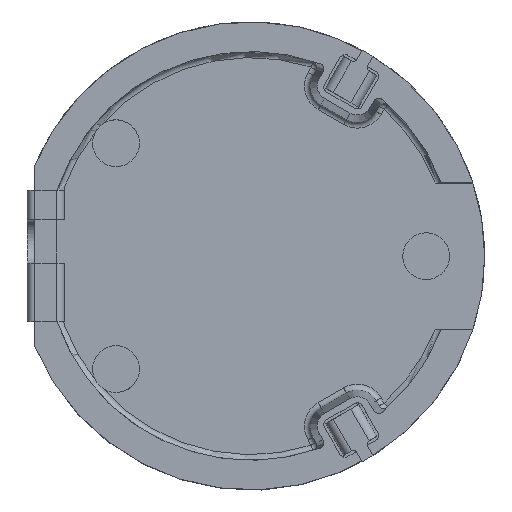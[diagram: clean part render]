
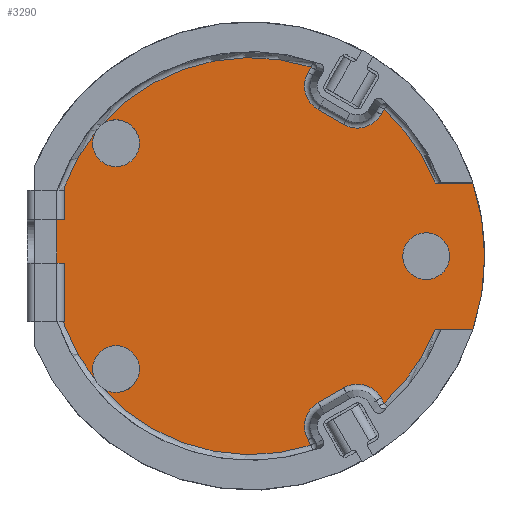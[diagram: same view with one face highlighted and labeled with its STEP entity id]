
A CAD part, top view. The second image highlights one B-rep face of the part: STEP entity #3290.
In plain terms, the highlighted planar face has unit normal (0, 0, 1).
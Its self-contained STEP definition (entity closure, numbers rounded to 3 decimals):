
#882=CARTESIAN_POINT('',(6.,0.,-4.95));
#883=DIRECTION('',(0.,0.,1.));
#884=DIRECTION('',(1.,0.,0.));
#885=AXIS2_PLACEMENT_3D('',#882,#883,#884);
#887=CARTESIAN_POINT('',(6.,0.,-4.95));
#888=DIRECTION('',(0.,0.,1.));
#889=DIRECTION('',(-1.,0.,0.));
#890=AXIS2_PLACEMENT_3D('',#887,#888,#889);
#892=CARTESIAN_POINT('',(0.,0.,-4.95));
#893=DIRECTION('',(0.,0.,1.));
#894=DIRECTION('',(-0.784,0.621,0.));
#895=AXIS2_PLACEMENT_3D('',#892,#893,#894);
#897=CARTESIAN_POINT('',(-4.6,3.86,-4.95));
#898=DIRECTION('',(0.,0.,1.));
#899=DIRECTION('',(-0.896,0.444,0.));
#900=AXIS2_PLACEMENT_3D('',#897,#898,#899);
#902=CARTESIAN_POINT('',(-4.6,3.86,-4.95));
#903=DIRECTION('',(0.,0.,1.));
#904=DIRECTION('',(-1.,0.,0.));
#905=AXIS2_PLACEMENT_3D('',#902,#903,#904);
#907=CARTESIAN_POINT('',(-4.6,3.86,-4.95));
#908=DIRECTION('',(0.,0.,1.));
#909=DIRECTION('',(1.,0.,0.));
#910=AXIS2_PLACEMENT_3D('',#907,#908,#909);
#912=CARTESIAN_POINT('',(0.,0.,-4.95));
#913=DIRECTION('',(0.,0.,1.));
#914=DIRECTION('',(0.305,0.952,0.));
#915=AXIS2_PLACEMENT_3D('',#912,#913,#914);
#917=DIRECTION('',(-0.5,-0.866,0.));
#918=VECTOR('',#917,0.204);
#919=CARTESIAN_POINT('',(2.068,6.462,-4.95));
#920=LINE('',#919,#918);
#921=CARTESIAN_POINT('',(2.78,5.815,-4.95));
#922=DIRECTION('',(0.,0.,1.));
#923=DIRECTION('',(-0.866,0.5,0.));
#924=AXIS2_PLACEMENT_3D('',#921,#922,#923);
#926=DIRECTION('',(0.866,-0.5,0.));
#927=VECTOR('',#926,1.001);
#928=CARTESIAN_POINT('',(2.31,5.002,-4.95));
#929=LINE('',#928,#927);
#930=CARTESIAN_POINT('',(3.646,5.315,-4.95));
#931=DIRECTION('',(0.,0.,1.));
#932=DIRECTION('',(-0.5,-0.866,0.));
#933=AXIS2_PLACEMENT_3D('',#930,#931,#932);
#935=DIRECTION('',(0.5,0.866,0.));
#936=VECTOR('',#935,0.204);
#937=CARTESIAN_POINT('',(4.46,4.845,-4.95));
#938=LINE('',#937,#936);
#939=DIRECTION('',(-0.5,0.866,0.));
#940=VECTOR('',#939,0.204);
#941=CARTESIAN_POINT('',(4.562,-5.022,-4.95));
#942=LINE('',#941,#940);
#943=CARTESIAN_POINT('',(3.646,-5.315,-4.95));
#944=DIRECTION('',(0.,0.,1.));
#945=DIRECTION('',(0.866,0.5,0.));
#946=AXIS2_PLACEMENT_3D('',#943,#944,#945);
#948=DIRECTION('',(-0.866,-0.5,0.));
#949=VECTOR('',#948,1.001);
#950=CARTESIAN_POINT('',(3.177,-4.502,-4.95));
#951=LINE('',#950,#949);
#952=CARTESIAN_POINT('',(2.78,-5.815,-4.95));
#953=DIRECTION('',(0.,0.,1.));
#954=DIRECTION('',(-0.5,0.866,0.));
#955=AXIS2_PLACEMENT_3D('',#952,#953,#954);
#957=DIRECTION('',(0.5,-0.866,0.));
#958=VECTOR('',#957,0.204);
#959=CARTESIAN_POINT('',(1.966,-6.285,-4.95));
#960=LINE('',#959,#958);
#961=CARTESIAN_POINT('',(0.,0.,-4.95));
#962=DIRECTION('',(0.,0.,1.));
#963=DIRECTION('',(-0.748,-0.664,0.));
#964=AXIS2_PLACEMENT_3D('',#961,#962,#963);
#966=CARTESIAN_POINT('',(-4.6,-3.86,-4.95));
#967=DIRECTION('',(0.,0.,1.));
#968=DIRECTION('',(-0.593,-0.805,0.));
#969=AXIS2_PLACEMENT_3D('',#966,#967,#968);
#971=CARTESIAN_POINT('',(-4.6,-3.86,-4.95));
#972=DIRECTION('',(0.,0.,1.));
#973=DIRECTION('',(1.,0.,0.));
#974=AXIS2_PLACEMENT_3D('',#971,#972,#973);
#976=CARTESIAN_POINT('',(-4.6,-3.86,-4.95));
#977=DIRECTION('',(0.,0.,1.));
#978=DIRECTION('',(-1.,0.,0.));
#979=AXIS2_PLACEMENT_3D('',#976,#977,#978);
#981=CARTESIAN_POINT('',(0.,0.,-4.95));
#982=DIRECTION('',(0.,0.,1.));
#983=DIRECTION('',(-0.977,-0.213,0.));
#984=AXIS2_PLACEMENT_3D('',#981,#982,#983);
#986=DIRECTION('',(0.,1.,0.));
#987=VECTOR('',#986,2.889);
#988=CARTESIAN_POINT('',(-6.629,-1.444,-4.95));
#989=LINE('',#988,#987);
#1161=CARTESIAN_POINT('',(0.,0.,-4.95));
#1162=DIRECTION('',(0.,0.,1.));
#1163=DIRECTION('',(0.672,-0.74,0.));
#1164=AXIS2_PLACEMENT_3D('',#1161,#1162,#1163);
#1180=DIRECTION('',(1.,0.,0.));
#1181=VECTOR('',#1180,1.292);
#1182=CARTESIAN_POINT('',(6.308,-2.5,-4.95));
#1183=LINE('',#1182,#1181);
#1211=CARTESIAN_POINT('',(0.,0.,-4.95));
#1212=DIRECTION('',(0.,0.,-1.));
#1213=DIRECTION('',(0.95,0.313,0.));
#1214=AXIS2_PLACEMENT_3D('',#1211,#1212,#1213);
#1453=CARTESIAN_POINT('',(-6.629,1.444,-4.95));
#1596=DIRECTION('',(-1.,0.,0.));
#1597=VECTOR('',#1596,1.292);
#1598=CARTESIAN_POINT('',(7.599,2.5,-4.95));
#1599=LINE('',#1598,#1597);
#1600=CARTESIAN_POINT('',(0.,0.,-4.95));
#1601=DIRECTION('',(0.,0.,1.));
#1602=DIRECTION('',(0.93,0.368,0.));
#1603=AXIS2_PLACEMENT_3D('',#1600,#1601,#1602);
#1617=CARTESIAN_POINT('',(6.308,2.5,-4.95));
#1733=CARTESIAN_POINT('',(7.599,2.5,-4.95));
#1734=CARTESIAN_POINT('',(7.599,-2.5,-4.95));
#1735=VERTEX_POINT('',#1733);
#1736=VERTEX_POINT('',#1734);
#1789=CARTESIAN_POINT('',(-3.8,-3.86,-4.95));
#1790=CARTESIAN_POINT('',(-5.4,-3.86,-4.95));
#1791=VERTEX_POINT('',#1789);
#1792=VERTEX_POINT('',#1790);
#1793=CARTESIAN_POINT('',(6.8,0.,-4.95));
#1794=CARTESIAN_POINT('',(5.2,0.,-4.95));
#1795=VERTEX_POINT('',#1793);
#1796=VERTEX_POINT('',#1794);
#1797=CARTESIAN_POINT('',(-5.4,3.86,-4.95));
#1798=CARTESIAN_POINT('',(-3.8,3.86,-4.95));
#1799=VERTEX_POINT('',#1797);
#1800=VERTEX_POINT('',#1798);
#1914=VERTEX_POINT('',#1617);
#1915=CARTESIAN_POINT('',(2.068,6.462,-4.95));
#1916=VERTEX_POINT('',#1915);
#1917=CARTESIAN_POINT('',(4.562,5.022,-4.95));
#1918=VERTEX_POINT('',#1917);
#2079=VERTEX_POINT('',#1453);
#2081=CARTESIAN_POINT('',(-5.317,4.215,-4.95));
#2082=VERTEX_POINT('',#2081);
#2083=CARTESIAN_POINT('',(-5.074,4.504,-4.95));
#2084=VERTEX_POINT('',#2083);
#2085=CARTESIAN_POINT('',(-5.074,-4.504,-4.95));
#2086=CARTESIAN_POINT('',(2.068,-6.462,-4.95));
#2087=VERTEX_POINT('',#2085);
#2088=VERTEX_POINT('',#2086);
#2089=CARTESIAN_POINT('',(-6.629,-1.444,-4.95));
#2090=CARTESIAN_POINT('',(-5.317,-4.215,-4.95));
#2091=VERTEX_POINT('',#2089);
#2092=VERTEX_POINT('',#2090);
#2095=CARTESIAN_POINT('',(4.562,-5.022,-4.95));
#2096=CARTESIAN_POINT('',(4.46,-4.845,
-4.95));
#2097=VERTEX_POINT('',#2095);
#2098=VERTEX_POINT('',#2096);
#2099=CARTESIAN_POINT('',(3.177,-4.502,
-4.95));
#2100=VERTEX_POINT('',#2099);
#2103=CARTESIAN_POINT('',(2.31,-5.002,
-4.95));
#2104=VERTEX_POINT('',#2103);
#2107=CARTESIAN_POINT('',(1.966,-6.285,
-4.95));
#2108=VERTEX_POINT('',#2107);
#2115=CARTESIAN_POINT('',(6.308,-2.5,-4.95));
#2116=VERTEX_POINT('',#2115);
#2117=CARTESIAN_POINT('',(4.46,4.845,-4.95));
#2118=VERTEX_POINT('',#2117);
#2121=CARTESIAN_POINT('',(3.177,4.501,-4.95));
#2122=VERTEX_POINT('',#2121);
#2125=CARTESIAN_POINT('',(2.31,5.002,-4.95));
#2126=VERTEX_POINT('',#2125);
#2129=CARTESIAN_POINT('',(1.966,6.285,-4.95));
#2130=VERTEX_POINT('',#2129);
#3226=CARTESIAN_POINT('',(0.,0.,-4.95));
#3227=DIRECTION('',(0.,0.,-1.));
#3228=DIRECTION('',(0.,-1.,0.));
#3229=AXIS2_PLACEMENT_3D('',#3226,#3227,#3228);
#3230=PLANE('',#3229);
#3232=ORIENTED_EDGE('',*,*,#3231,.F.);
#3234=ORIENTED_EDGE('',*,*,#3233,.T.);
#3236=ORIENTED_EDGE('',*,*,#3235,.T.);
#3238=ORIENTED_EDGE('',*,*,#3237,.T.);
#3240=ORIENTED_EDGE('',*,*,#3239,.F.);
#3242=ORIENTED_EDGE('',*,*,#3241,.T.);
#3243=ORIENTED_EDGE('',*,*,#3216,.T.);
#3245=ORIENTED_EDGE('',*,*,#3244,.T.);
#3247=ORIENTED_EDGE('',*,*,#3246,.T.);
#3249=ORIENTED_EDGE('',*,*,#3248,.T.);
#3251=ORIENTED_EDGE('',*,*,#3250,.F.);
#3253=ORIENTED_EDGE('',*,*,#3252,.F.);
#3255=ORIENTED_EDGE('',*,*,#3254,.T.);
#3257=ORIENTED_EDGE('',*,*,#3256,.F.);
#3259=ORIENTED_EDGE('',*,*,#3258,.F.);
#3261=ORIENTED_EDGE('',*,*,#3260,.T.);
#3263=ORIENTED_EDGE('',*,*,#3262,.T.);
#3265=ORIENTED_EDGE('',*,*,#3264,.T.);
#3267=ORIENTED_EDGE('',*,*,#3266,.T.);
#3269=ORIENTED_EDGE('',*,*,#3268,.T.);
#3271=ORIENTED_EDGE('',*,*,#3270,.F.);
#3273=ORIENTED_EDGE('',*,*,#3272,.T.);
#3275=ORIENTED_EDGE('',*,*,#3274,.T.);
#3277=ORIENTED_EDGE('',*,*,#3276,.T.);
#3279=ORIENTED_EDGE('',*,*,#3278,.F.);
#3281=ORIENTED_EDGE('',*,*,#3280,.T.);
#3282=EDGE_LOOP('',(#3232,#3234,#3236,#3238,#3240,#3242,#3243,#3245,#3247,#3249,
#3251,#3253,#3255,#3257,#3259,#3261,#3263,#3265,#3267,#3269,#3271,#3273,#3275,
#3277,#3279,#3281));
#3283=FACE_OUTER_BOUND('',#3282,.F.);
#3285=ORIENTED_EDGE('',*,*,#3284,.T.);
#3287=ORIENTED_EDGE('',*,*,#3286,.T.);
#3288=EDGE_LOOP('',(#3285,#3287));
#3289=FACE_BOUND('',#3288,.F.);
#3290=ADVANCED_FACE('',(#3283,#3289),#3230,.F.);
#886=CIRCLE('',#885,0.8);
#891=CIRCLE('',#890,0.8);
#896=CIRCLE('',#895,6.785);
#901=CIRCLE('',#900,0.8);
#906=CIRCLE('',#905,0.8);
#911=CIRCLE('',#910,0.8);
#916=CIRCLE('',#915,6.785);
#925=CIRCLE('',#924,0.939);
#934=CIRCLE('',#933,0.939);
#947=CIRCLE('',#946,0.939);
#956=CIRCLE('',#955,0.939);
#965=CIRCLE('',#964,6.785);
#970=CIRCLE('',#969,0.8);
#975=CIRCLE('',#974,0.8);
#980=CIRCLE('',#979,0.8);
#985=CIRCLE('',#984,6.785);
#1165=CIRCLE('',#1164,6.785);
#1215=CIRCLE('',#1214,8.);
#1604=CIRCLE('',#1603,6.785);
#3216=EDGE_CURVE('',#2130,#2126,#925,.T.);
#3231=EDGE_CURVE('',#2082,#2079,#896,.T.);
#3233=EDGE_CURVE('',#2082,#1799,#901,.T.);
#3235=EDGE_CURVE('',#1799,#1800,#906,.T.);
#3237=EDGE_CURVE('',#1800,#2084,#911,.T.);
#3239=EDGE_CURVE('',#1916,#2084,#916,.T.);
#3241=EDGE_CURVE('',#1916,#2130,#920,.T.);
#3244=EDGE_CURVE('',#2126,#2122,#929,.T.);
#3246=EDGE_CURVE('',#2122,#2118,#934,.T.);
#3248=EDGE_CURVE('',#2118,#1918,#938,.T.);
#3250=EDGE_CURVE('',#1914,#1918,#1604,.T.);
#3252=EDGE_CURVE('',#1735,#1914,#1599,.T.);
#3254=EDGE_CURVE('',#1735,#1736,#1215,.T.);
#3256=EDGE_CURVE('',#2116,#1736,#1183,.T.);
#3258=EDGE_CURVE('',#2097,#2116,#1165,.T.);
#3260=EDGE_CURVE('',#2097,#2098,#942,.T.);
#3262=EDGE_CURVE('',#2098,#2100,#947,.T.);
#3264=EDGE_CURVE('',#2100,#2104,#951,.T.);
#3266=EDGE_CURVE('',#2104,#2108,#956,.T.);
#3268=EDGE_CURVE('',#2108,#2088,#960,.T.);
#3270=EDGE_CURVE('',#2087,#2088,#965,.T.);
#3272=EDGE_CURVE('',#2087,#1791,#970,.T.);
#3274=EDGE_CURVE('',#1791,#1792,#975,.T.);
#3276=EDGE_CURVE('',#1792,#2092,#980,.T.);
#3278=EDGE_CURVE('',#2091,#2092,#985,.T.);
#3280=EDGE_CURVE('',#2091,#2079,#989,.T.);
#3284=EDGE_CURVE('',#1795,#1796,#886,.T.);
#3286=EDGE_CURVE('',#1796,#1795,#891,.T.);
